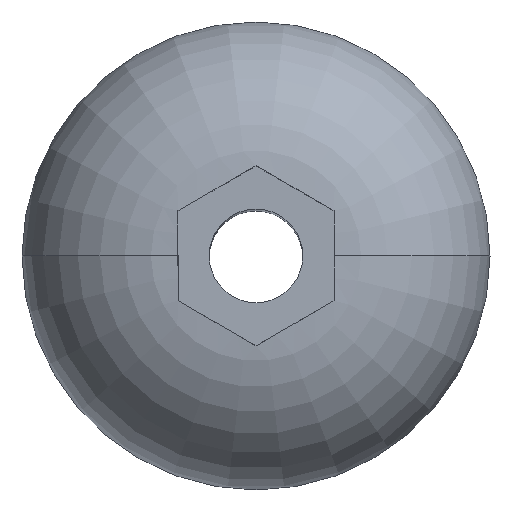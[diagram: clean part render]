
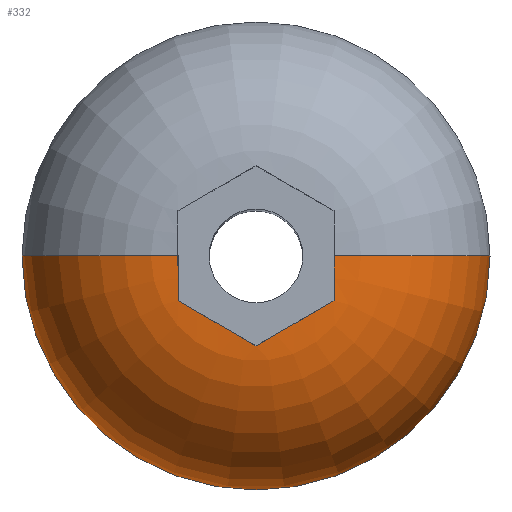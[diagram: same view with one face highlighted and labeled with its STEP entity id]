
A CAD part, top view. The second image highlights one B-rep face of the part: STEP entity #332.
In plain terms, the highlighted toroidal (fillet/blend) face has major radius 0.75 mm and minor radius 1.5 mm.
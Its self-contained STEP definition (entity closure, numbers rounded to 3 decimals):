
#59 = EDGE_CURVE ( 'NONE', #1245, #515, #125, .T. ) ;
#69 = DIRECTION ( 'NONE',  ( 0., 0., 1. ) ) ;
#89 = CARTESIAN_POINT ( 'NONE',  ( 0., -0.866, 1.496 ) ) ;
#125 = B_SPLINE_CURVE_WITH_KNOTS ( 'NONE', 3,
 ( #1385, #771, #2661, #311, #524, #2202 ),
 .UNSPECIFIED., .F., .F.,
 ( 4, 2, 4 ),
 ( 0., 0., 0. ),
 .UNSPECIFIED. ) ;
#130 = CARTESIAN_POINT ( 'NONE',  ( -0.375, -0.65, 1.499 ) ) ;
#162 = CARTESIAN_POINT ( 'NONE',  ( -0.75, -0.433, 1.496 ) ) ;
#172 = AXIS2_PLACEMENT_3D ( 'NONE', #2183, #1147, #1129 ) ;
#184 = CARTESIAN_POINT ( 'NONE',  ( 0.375, -0.65, 1.499 ) ) ;
#193 = DIRECTION ( 'NONE',  ( 0., -1., 0. ) ) ;
#206 = DIRECTION ( 'NONE',  ( -1., 0., 0. ) ) ;
#207 = EDGE_CURVE ( 'NONE', #1971, #1245, #2117, .T. ) ;
#215 = CARTESIAN_POINT ( 'NONE',  ( -0.75, 0., 0. ) ) ;
#305 = CARTESIAN_POINT ( 'NONE',  ( -0.75, -0.071, 1.5 ) ) ;
#311 = CARTESIAN_POINT ( 'NONE',  ( 0.75, -0.289, 1.499 ) ) ;
#332 = ADVANCED_FACE ( 'NONE', ( #1567 ), #1454, .T. ) ;
#385 = CARTESIAN_POINT ( 'NONE',  ( 0., -0.866, 1.496 ) ) ;
#391 = CIRCLE ( 'NONE', #863, 1.5 ) ;
#448 = ORIENTED_EDGE ( 'NONE', *, *, #1220, .T. ) ;
#515 = VERTEX_POINT ( 'NONE', #1617 ) ;
#524 = CARTESIAN_POINT ( 'NONE',  ( 0.75, -0.361, 1.498 ) ) ;
#598 = CARTESIAN_POINT ( 'NONE',  ( 0.625, -0.505, 1.501 ) ) ;
#636 = CARTESIAN_POINT ( 'NONE',  ( 0.75, 0., 0. ) ) ;
#762 = CARTESIAN_POINT ( 'NONE',  ( -0.75, -0.144, 1.5 ) ) ;
#771 = CARTESIAN_POINT ( 'NONE',  ( 0.75, -0.072, 1.5 ) ) ;
#859 = CIRCLE ( 'NONE', #172, 2.25 ) ;
#863 = AXIS2_PLACEMENT_3D ( 'NONE', #215, #1736, #206 ) ;
#906 = EDGE_CURVE ( 'NONE', #1779, #2583, #2655, .T. ) ;
#962 = CARTESIAN_POINT ( 'NONE',  ( -0.75, -0.289, 1.499 ) ) ;
#1115 = AXIS2_PLACEMENT_3D ( 'NONE', #2003, #69, #1369 ) ;
#1129 = DIRECTION ( 'NONE',  ( 1., 0., 0. ) ) ;
#1147 = DIRECTION ( 'NONE',  ( 0., 0., 1. ) ) ;
#1206 = CARTESIAN_POINT ( 'NONE',  ( -0.125, -0.794, 1.501 ) ) ;
#1220 = EDGE_CURVE ( 'NONE', #1398, #1971, #859, .T. ) ;
#1230 = ORIENTED_EDGE ( 'NONE', *, *, #2022, .T. ) ;
#1245 = VERTEX_POINT ( 'NONE', #1561 ) ;
#1304 = AXIS2_PLACEMENT_3D ( 'NONE', #636, #193, #2085 ) ;
#1308 = EDGE_LOOP ( 'NONE', ( #2456, #448, #2268, #1629, #1230, #1592, #1845 ) ) ;
#1369 = DIRECTION ( 'NONE',  ( 1., 0., 0. ) ) ;
#1385 = CARTESIAN_POINT ( 'NONE',  ( 0.75, 0., 1.5 ) ) ;
#1398 = VERTEX_POINT ( 'NONE', #2336 ) ;
#1450 = CARTESIAN_POINT ( 'NONE',  ( 2.25, 0., 0. ) ) ;
#1454 = TOROIDAL_SURFACE ( 'NONE', #1115, 0.75, 1.5 ) ;
#1561 = CARTESIAN_POINT ( 'NONE',  ( 0.75, 0., 1.5 ) ) ;
#1567 = FACE_OUTER_BOUND ( 'NONE', #1308, .T. ) ;
#1573 = CARTESIAN_POINT ( 'NONE',  ( -0.75, -0.361, 1.498 ) ) ;
#1592 = ORIENTED_EDGE ( 'NONE', *, *, #906, .T. ) ;
#1617 = CARTESIAN_POINT ( 'NONE',  ( 0.75, -0.433, 1.496 ) ) ;
#1618 = CARTESIAN_POINT ( 'NONE',  ( -0.75, 0., 1.5 ) ) ;
#1629 = ORIENTED_EDGE ( 'NONE', *, *, #59, .T. ) ;
#1736 = DIRECTION ( 'NONE',  ( 0., 1., 0. ) ) ;
#1779 = VERTEX_POINT ( 'NONE', #89 ) ;
#1820 = B_SPLINE_CURVE_WITH_KNOTS ( 'NONE', 3,
 ( #2265, #598, #184, #1889, #385 ),
 .UNSPECIFIED., .F., .F.,
 ( 4, 1, 4 ),
 ( 0., 0., 0.001 ),
 .UNSPECIFIED. ) ;
#1841 = VERTEX_POINT ( 'NONE', #1618 ) ;
#1845 = ORIENTED_EDGE ( 'NONE', *, *, #2334, .T. ) ;
#1889 = CARTESIAN_POINT ( 'NONE',  ( 0.125, -0.794, 1.501 ) ) ;
#1971 = VERTEX_POINT ( 'NONE', #1450 ) ;
#2003 = CARTESIAN_POINT ( 'NONE',  ( 0., 0., 0. ) ) ;
#2022 = EDGE_CURVE ( 'NONE', #515, #1779, #1820, .T. ) ;
#2053 = CARTESIAN_POINT ( 'NONE',  ( -0.75, -0.433, 1.496 ) ) ;
#2085 = DIRECTION ( 'NONE',  ( 0., 0., -1. ) ) ;
#2117 = CIRCLE ( 'NONE', #1304, 1.5 ) ;
#2183 = CARTESIAN_POINT ( 'NONE',  ( 0., 0., 0. ) ) ;
#2202 = CARTESIAN_POINT ( 'NONE',  ( 0.75, -0.433, 1.496 ) ) ;
#2265 = CARTESIAN_POINT ( 'NONE',  ( 0.75, -0.433, 1.496 ) ) ;
#2268 = ORIENTED_EDGE ( 'NONE', *, *, #207, .T. ) ;
#2334 = EDGE_CURVE ( 'NONE', #2583, #1841, #2414, .T. ) ;
#2336 = CARTESIAN_POINT ( 'NONE',  ( -2.25, 0., 0. ) ) ;
#2414 = B_SPLINE_CURVE_WITH_KNOTS ( 'NONE', 3,
 ( #2430, #1573, #962, #762, #305, #2439 ),
 .UNSPECIFIED., .F., .F.,
 ( 4, 2, 4 ),
 ( 0.011, 0.012, 0.012 ),
 .UNSPECIFIED. ) ;
#2430 = CARTESIAN_POINT ( 'NONE',  ( -0.75, -0.433, 1.496 ) ) ;
#2439 = CARTESIAN_POINT ( 'NONE',  ( -0.75, 0., 1.5 ) ) ;
#2450 = CARTESIAN_POINT ( 'NONE',  ( 0., -0.866, 1.496 ) ) ;
#2456 = ORIENTED_EDGE ( 'NONE', *, *, #2629, .F. ) ;
#2513 = CARTESIAN_POINT ( 'NONE',  ( -0.625, -0.505, 1.501 ) ) ;
#2583 = VERTEX_POINT ( 'NONE', #162 ) ;
#2629 = EDGE_CURVE ( 'NONE', #1398, #1841, #391, .T. ) ;
#2655 = B_SPLINE_CURVE_WITH_KNOTS ( 'NONE', 3,
 ( #2450, #1206, #130, #2513, #2053 ),
 .UNSPECIFIED., .F., .F.,
 ( 4, 1, 4 ),
 ( 0., 0., 0.001 ),
 .UNSPECIFIED. ) ;
#2661 = CARTESIAN_POINT ( 'NONE',  ( 0.75, -0.144, 1.5 ) ) ;
